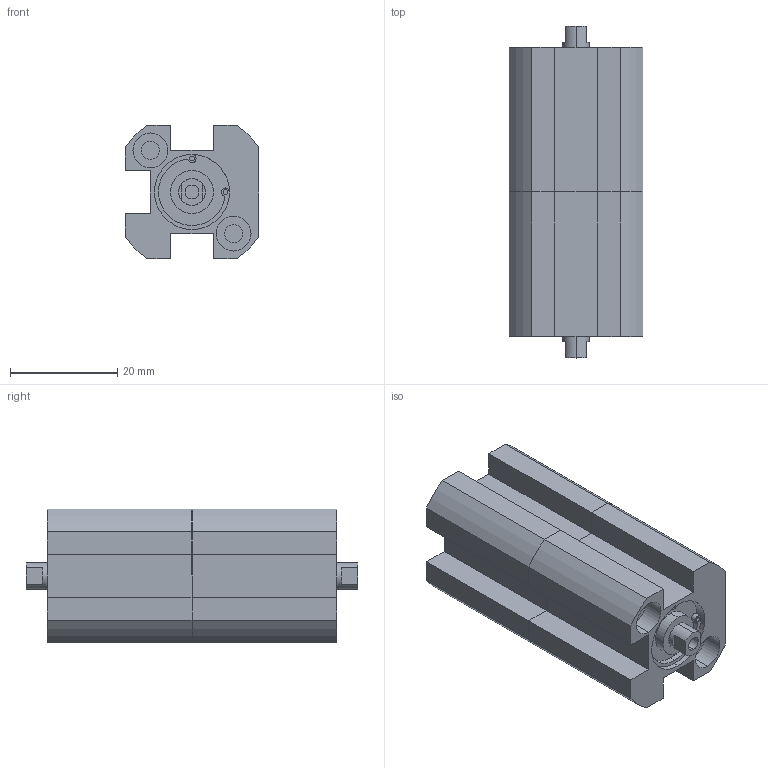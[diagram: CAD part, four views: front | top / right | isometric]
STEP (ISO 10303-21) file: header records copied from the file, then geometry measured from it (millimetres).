
FILE_DESCRIPTION (( 'STEP AP203' ), '1' );
FILE_NAME ('XCD7-10-10-10.STEP', '2016-08-05T01:37:33', ( '' ), ( '' ), 'SwSTEP 2.0', 'SolidWorks 2014', '' );
FILE_SCHEMA (( 'CONFIG_CONTROL_DESIGN' ));
Length unit declared in the file: millimetre
Products named in the file (2): XCD7-10-10-10; XC#2-10-10
Assembly tree (2 placements, depth 2):
  XCD7-10-10-10
    XC#2-10-10  x2
Bounding box: 25 x 62 x 25 mm (x, y, z)
Volume: 23266.4 mm3; surface area: 10877.1 mm2
Topology: 2 solids, 2 shells, 152 faces, 374 edges, 242 vertices
Faces by surface type: cylinder 78, plane 66, cone 8
Entity records: 2482 total; most frequent: DIRECTION 428, CARTESIAN_POINT 385, ORIENTED_EDGE 366, EDGE_CURVE 183, AXIS2_PLACEMENT_3D 164, VERTEX_POINT 121, LINE 100, VECTOR 100
